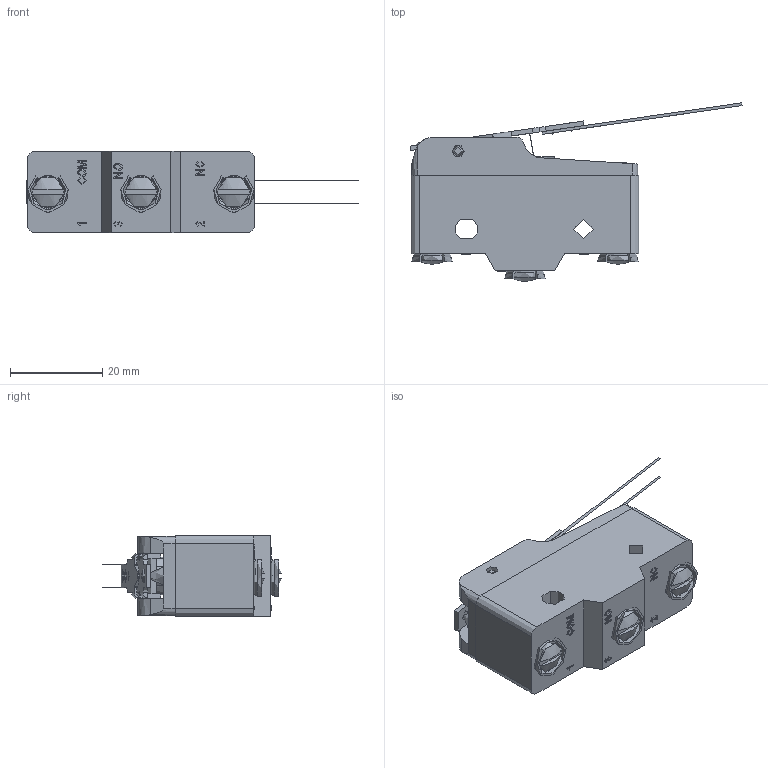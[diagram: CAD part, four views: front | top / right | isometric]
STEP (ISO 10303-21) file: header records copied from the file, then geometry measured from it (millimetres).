
FILE_DESCRIPTION((''),'2; 1');
FILE_NAME('','2026-03-27T16:22:55',(''),(''),'CST STEP Exporter V1.0','Unknown','');
FILE_SCHEMA(('CONFIG_CONTROL_DESIGN'));
Length unit declared in the file: metre
Assembly tree (15 placements, depth 2):
  (unnamed)
    (unnamed)
    (unnamed)
    (unnamed)
    (unnamed)
    (unnamed)
    (unnamed)
    (unnamed)
    (unnamed)
    (unnamed)
    (unnamed)
    (unnamed)
    (unnamed)
    (unnamed)
    (unnamed)
    (unnamed)
Bounding box: 71.99 x 38.66 x 17.7 mm (x, y, z)
Topology: 0 solids, 24 shells, 444 faces, 1379 edges, 953 vertices
Faces by surface type: plane 303, cylinder 69, extrusion 51, torus 9, revolution 6, cone 3, bspline 2, sphere 1
Full cylindrical faces by diameter (mm): 1.8 x1, 2.4 x1, 2.5 x1, 2.6 x3, 4 x1, 4.2 x1, 6.9 x3, 8.2 x1
Entity records: 21483 total; most frequent: CARTESIAN_POINT 6031, ORIENTED_EDGE 2388, DIRECTION 2169, EDGE_CURVE 1353, VECTOR 972, VERTEX_POINT 923, LINE 921, AXIS2_PLACEMENT_3D 597
